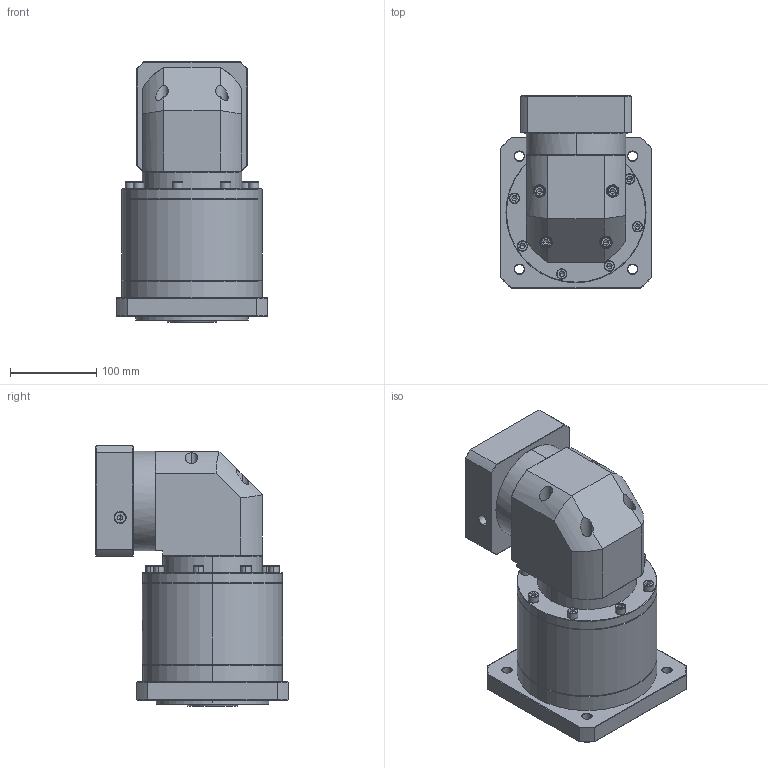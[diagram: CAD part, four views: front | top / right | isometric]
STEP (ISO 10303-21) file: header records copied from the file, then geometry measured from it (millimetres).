
FILE_DESCRIPTION (( 'STEP AP214' ), '1' );
FILE_NAME ('ZFR160A-K35-L3-P2-19-110-145-M8.step', '2023-09-03T09:44:58', ( '' ), ( '' ), 'SwSTEP 2.0', 'SolidWorks 2016', '' );
FILE_SCHEMA (( 'AUTOMOTIVE_DESIGN' ));
Length unit declared in the file: millimetre
Products named in the file (1): ZFR160A-K35-L3-P2-19-110-145-M8
Bounding box: 175 x 222.4 x 301.2 mm (x, y, z)
Volume: 5569737.9 mm3; surface area: 360942.9 mm2
Topology: 6 solids, 6 shells, 2413 faces, 6309 edges, 4022 vertices
Faces by surface type: plane 1139, cylinder 462, bspline 404, cone 364, torus 44
Entity records: 126351 total; most frequent: CARTESIAN_POINT 45633, ORIENTED_EDGE 12514, DIRECTION 9534, EDGE_CURVE 6257, VERTEX_POINT 4022, LINE 3382, VECTOR 3382, AXIS2_PLACEMENT_3D 3076
